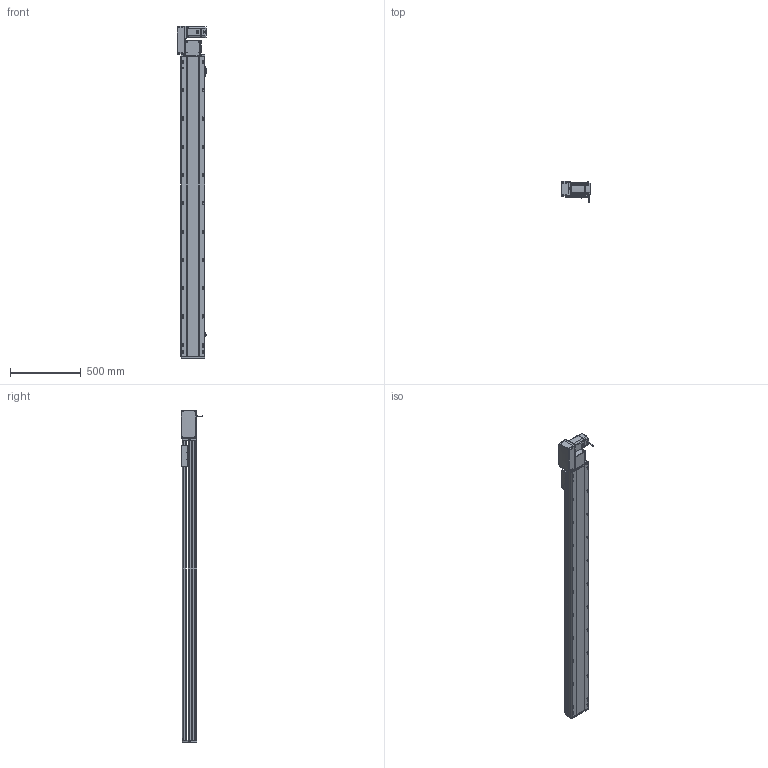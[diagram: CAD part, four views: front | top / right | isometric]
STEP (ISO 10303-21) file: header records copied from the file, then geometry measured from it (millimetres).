
FILE_DESCRIPTION (( 'STEP AP214' ), '1' );
FILE_NAME ('RTB17S-XX-1850-L-M75-C4.STEP', '2025-12-12T00:17:50', ( '' ), ( '' ), 'SwSTEP 2.0', 'SolidWorks 2018', '' );
FILE_SCHEMA (( 'AUTOMOTIVE_DESIGN' ));
Length unit declared in the file: millimetre
Products named in the file (15): RTB22S-GY-018P^RTB17S-L-々湍釱蚾饜-750W_RTB17S-XX-XX-L-M75-C4; RTB17S-賑釱^RTB17S-XX-XX-L-M75-C4; RTB17S-XX-1850-L-M75-C4; RMP17S-L-014-T20-P75--々湍釱^RTB17S-L-々湍釱蚾饜-750W_RTB17S-XX-XX-L-M75-C4; RTB17S-L-々湍釱蚾饜-750W^RTB17S-XX-XX-L-M75-C4; 750W萇儂^RTB17S-XX-XX-L-M75-C4; RTB17S-L-007奻裔^RTB17S-XX-XX-L-M75-C4; EE672^RTB17S-XX-XX-L-M75-C4; RTB22S-GY-005P^RTB17S-L-々湍釱蚾饜-750W_RTB17S-XX-XX-L-M75-C4; RTH13-BL-012覜茼え俋离^RTB17S-賑釱_RTB17S-XX-XX-L-M75-C4; RTB22S-GY-008-M75--萇儂啣^RTB17S-L-々湍釱蚾饜-750W_RTB17S-XX-XX-L-M75-C4; RTB17-R-011菁釱^RTB17S-XX-XX-L-M75-C4; RTB17S-L-004-賑釱^RTB17S-賑釱_RTB17S-XX-XX-L-M75-C4; RTB17S-L-001-耜醱啣^RTB17S-XX-XX-L-M75-C4; RTB22S-GY-017P^RTB17S-L-々湍釱蚾饜-750W_RTB17S-XX-XX-L-M75-C4
Assembly tree (17 placements, depth 3):
  RTB17S-XX-1850-L-M75-C4
    RTB17-R-011菁釱^RTB17S-XX-XX-L-M75-C4
    EE672^RTB17S-XX-XX-L-M75-C4  x3
    RTB17S-L-001-耜醱啣^RTB17S-XX-XX-L-M75-C4
    RTB17S-賑釱^RTB17S-XX-XX-L-M75-C4
      RTB17S-L-004-賑釱^RTB17S-賑釱_RTB17S-XX-XX-L-M75-C4
      RTH13-BL-012覜茼え俋离^RTB17S-賑釱_RTB17S-XX-XX-L-M75-C4
    RTB17S-L-007奻裔^RTB17S-XX-XX-L-M75-C4
    750W萇儂^RTB17S-XX-XX-L-M75-C4
    RTB17S-L-々湍釱蚾饜-750W^RTB17S-XX-XX-L-M75-C4
      RMP17S-L-014-T20-P75--々湍釱^RTB17S-L-々湍釱蚾饜-750W_RTB17S-XX-XX-L-M75-C4
      RTB22S-GY-005P^RTB17S-L-々湍釱蚾饜-750W_RTB17S-XX-XX-L-M75-C4
      RTB22S-GY-017P^RTB17S-L-々湍釱蚾饜-750W_RTB17S-XX-XX-L-M75-C4  x2
      RTB22S-GY-008-M75--萇儂啣^RTB17S-L-々湍釱蚾饜-750W_RTB17S-XX-XX-L-M75-C4
      RTB22S-GY-018P^RTB17S-L-々湍釱蚾饜-750W_RTB17S-XX-XX-L-M75-C4
Bounding box: 210.4 x 152.7 x 2349 mm (x, y, z)
Volume: 17509381.9 mm3; surface area: 3116797.5 mm2
Topology: 17 solids, 17 shells, 2169 faces, 6052 edges, 3914 vertices
Faces by surface type: plane 980, cylinder 773, bspline 294, cone 110, sphere 8, torus 4
Entity records: 61942 total; most frequent: CARTESIAN_POINT 18316, ORIENTED_EDGE 8948, DIRECTION 8312, EDGE_CURVE 4474, AXIS2_PLACEMENT_3D 2934, VERTEX_POINT 2918, VECTOR 2444, LINE 2444
